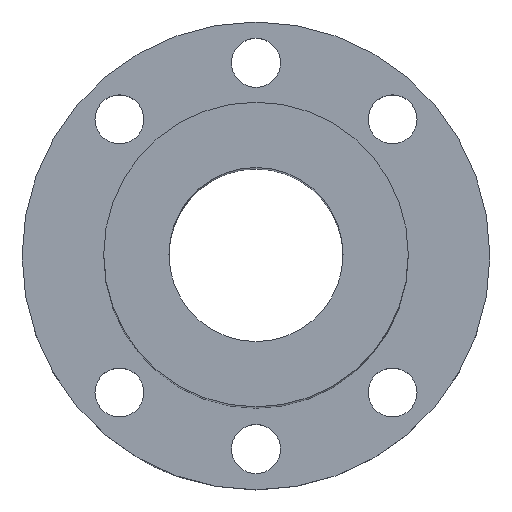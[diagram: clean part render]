
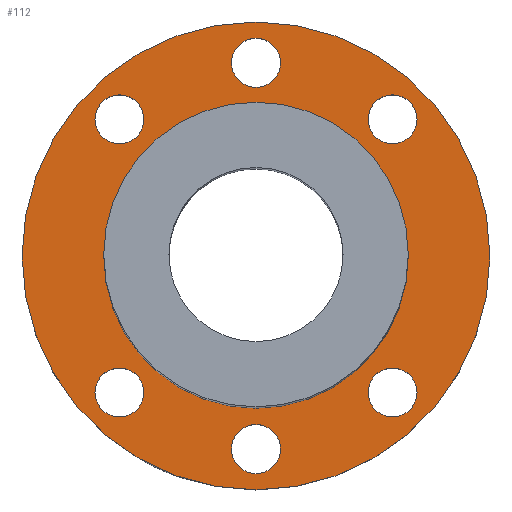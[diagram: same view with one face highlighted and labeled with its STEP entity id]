
A CAD part, top view. The second image highlights one B-rep face of the part: STEP entity #112.
In plain terms, the highlighted planar face has unit normal (0, 0, 1).
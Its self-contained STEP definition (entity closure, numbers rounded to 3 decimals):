
#99=PLANE('',#355);
#112=ADVANCED_FACE('',(#159,#160,#161,#162,#163,#164,#165,#166),#99,.T.);
#159=FACE_BOUND('',#203,.T.);
#160=FACE_BOUND('',#204,.T.);
#161=FACE_BOUND('',#205,.T.);
#162=FACE_BOUND('',#206,.T.);
#163=FACE_BOUND('',#207,.T.);
#164=FACE_BOUND('',#208,.T.);
#165=FACE_BOUND('',#209,.T.);
#166=FACE_BOUND('',#210,.T.);
#203=EDGE_LOOP('',(#247));
#204=EDGE_LOOP('',(#248));
#205=EDGE_LOOP('',(#249));
#206=EDGE_LOOP('',(#250));
#207=EDGE_LOOP('',(#251));
#208=EDGE_LOOP('',(#252));
#209=EDGE_LOOP('',(#253));
#210=EDGE_LOOP('',(#254));
#247=ORIENTED_EDGE('',*,*,#284,.T.);
#248=ORIENTED_EDGE('',*,*,#301,.T.);
#249=ORIENTED_EDGE('',*,*,#286,.T.);
#250=ORIENTED_EDGE('',*,*,#300,.F.);
#251=ORIENTED_EDGE('',*,*,#299,.F.);
#252=ORIENTED_EDGE('',*,*,#298,.F.);
#253=ORIENTED_EDGE('',*,*,#297,.T.);
#254=ORIENTED_EDGE('',*,*,#302,.T.);
#262=VERTEX_POINT('',#437);
#264=VERTEX_POINT('',#499);
#275=VERTEX_POINT('',#582);
#276=VERTEX_POINT('',#585);
#277=VERTEX_POINT('',#588);
#278=VERTEX_POINT('',#591);
#279=VERTEX_POINT('',#594);
#280=VERTEX_POINT('',#597);
#284=EDGE_CURVE('',#262,#262,#306,.T.);
#286=EDGE_CURVE('',#264,#264,#307,.T.);
#297=EDGE_CURVE('',#275,#275,#317,.T.);
#298=EDGE_CURVE('',#276,#276,#318,.T.);
#299=EDGE_CURVE('',#277,#277,#319,.T.);
#300=EDGE_CURVE('',#278,#278,#320,.T.);
#301=EDGE_CURVE('',#279,#279,#321,.T.);
#302=EDGE_CURVE('',#280,#280,#322,.T.);
#306=CIRCLE('',#327,43.);
#307=CIRCLE('',#329,28.);
#317=CIRCLE('',#343,4.5);
#318=CIRCLE('',#345,4.5);
#319=CIRCLE('',#347,4.5);
#320=CIRCLE('',#349,4.5);
#321=CIRCLE('',#351,4.5);
#322=CIRCLE('',#353,4.5);
#327=AXIS2_PLACEMENT_3D('',#436,#365,#366);
#329=AXIS2_PLACEMENT_3D('',#498,#369,#370);
#343=AXIS2_PLACEMENT_3D('',#581,#397,#398);
#345=AXIS2_PLACEMENT_3D('',#584,#401,#402);
#347=AXIS2_PLACEMENT_3D('',#587,#405,#406);
#349=AXIS2_PLACEMENT_3D('',#590,#409,#410);
#351=AXIS2_PLACEMENT_3D('',#593,#413,#414);
#353=AXIS2_PLACEMENT_3D('',#596,#417,#418);
#355=AXIS2_PLACEMENT_3D('',#599,#421,#422);
#365=DIRECTION('',(0.,0.,1.));
#366=DIRECTION('',(1.,0.,0.));
#369=DIRECTION('',(0.,0.,-1.));
#370=DIRECTION('',(1.,0.,0.));
#397=DIRECTION('',(0.,0.,-1.));
#398=DIRECTION('',(-1.,0.,0.));
#401=DIRECTION('',(0.,0.,1.));
#402=DIRECTION('',(-1.,0.,0.));
#405=DIRECTION('',(0.,0.,1.));
#406=DIRECTION('',(1.,0.,0.));
#409=DIRECTION('',(0.,0.,1.));
#410=DIRECTION('',(1.,0.,0.));
#413=DIRECTION('',(0.,0.,-1.));
#414=DIRECTION('',(1.,0.,0.));
#417=DIRECTION('',(0.,0.,-1.));
#418=DIRECTION('',(1.,0.,0.));
#421=DIRECTION('',(0.,0.,1.));
#422=DIRECTION('',(1.,0.,0.));
#436=CARTESIAN_POINT('',(0.,0.,14.));
#437=CARTESIAN_POINT('',(43.,0.,14.));
#498=CARTESIAN_POINT('',(0.,0.,14.));
#499=CARTESIAN_POINT('',(28.,0.,14.));
#581=CARTESIAN_POINT('',(25.102,25.102,14.));
#582=CARTESIAN_POINT('',(20.602,25.102,14.));
#584=CARTESIAN_POINT('',(25.102,-25.102,14.));
#585=CARTESIAN_POINT('',(20.602,-25.102,14.));
#587=CARTESIAN_POINT('',(-25.102,25.102,14.));
#588=CARTESIAN_POINT('',(-20.602,25.102,14.));
#590=CARTESIAN_POINT('',(0.,35.5,14.));
#591=CARTESIAN_POINT('',(4.5,35.5,14.));
#593=CARTESIAN_POINT('',(-25.102,-25.102,14.));
#594=CARTESIAN_POINT('',(-20.602,-25.102,14.));
#596=CARTESIAN_POINT('',(0.,-35.5,14.));
#597=CARTESIAN_POINT('',(4.5,-35.5,14.));
#599=CARTESIAN_POINT('',(-12.551,-12.551,14.));
